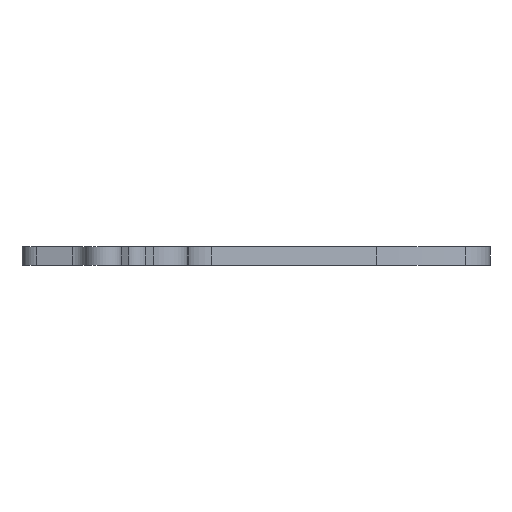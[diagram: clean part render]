
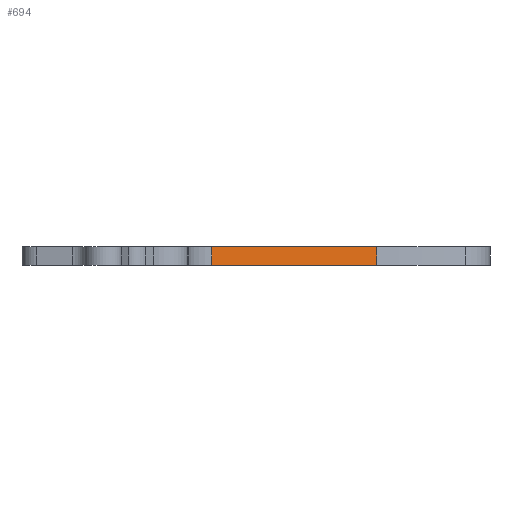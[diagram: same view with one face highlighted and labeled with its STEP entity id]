
A CAD part, left-side view. The second image highlights one B-rep face of the part: STEP entity #694.
In plain terms, the highlighted planar face has unit normal (-0.799, -0.602, 0).
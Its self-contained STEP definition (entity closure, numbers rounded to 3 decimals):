
#47=PLANE('',#776);
#80=FACE_OUTER_BOUND('',#115,.T.);
#115=EDGE_LOOP('',(#566,#567,#568,#569));
#184=LINE('',#1183,#243);
#185=LINE('',#1186,#244);
#186=LINE('',#1188,#245);
#187=LINE('',#1189,#246);
#243=VECTOR('',#963,10.);
#244=VECTOR('',#966,10.);
#245=VECTOR('',#967,10.);
#246=VECTOR('',#968,10.);
#343=VERTEX_POINT('',#1179);
#344=VERTEX_POINT('',#1181);
#345=VERTEX_POINT('',#1185);
#346=VERTEX_POINT('',#1187);
#438=EDGE_CURVE('',#343,#344,#184,.T.);
#439=EDGE_CURVE('',#345,#343,#185,.T.);
#440=EDGE_CURVE('',#346,#344,#186,.T.);
#441=EDGE_CURVE('',#345,#346,#187,.T.);
#566=ORIENTED_EDGE('',*,*,#439,.T.);
#567=ORIENTED_EDGE('',*,*,#438,.T.);
#568=ORIENTED_EDGE('',*,*,#440,.F.);
#569=ORIENTED_EDGE('',*,*,#441,.F.);
#694=ADVANCED_FACE('',(#80),#47,.T.);
#776=AXIS2_PLACEMENT_3D('',#1184,#964,#965);
#963=DIRECTION('',(0.,0.,1.));
#964=DIRECTION('center_axis',(-0.799,-0.602,0.));
#965=DIRECTION('ref_axis',(0.602,-0.799,0.));
#966=DIRECTION('',(0.602,-0.799,0.));
#967=DIRECTION('',(0.602,-0.799,0.));
#968=DIRECTION('',(0.,0.,1.));
#1179=CARTESIAN_POINT('',(-12.226,9.578,0.));
#1181=CARTESIAN_POINT('',(-12.226,9.578,2.5));
#1183=CARTESIAN_POINT('',(-12.226,9.578,0.));
#1184=CARTESIAN_POINT('Origin',(-28.798,31.57,0.));
#1185=CARTESIAN_POINT('',(-28.798,31.57,0.));
#1186=CARTESIAN_POINT('',(-28.798,31.57,0.));
#1187=CARTESIAN_POINT('',(-28.798,31.57,2.5));
#1188=CARTESIAN_POINT('',(-28.798,31.57,2.5));
#1189=CARTESIAN_POINT('',(-28.798,31.57,0.));
